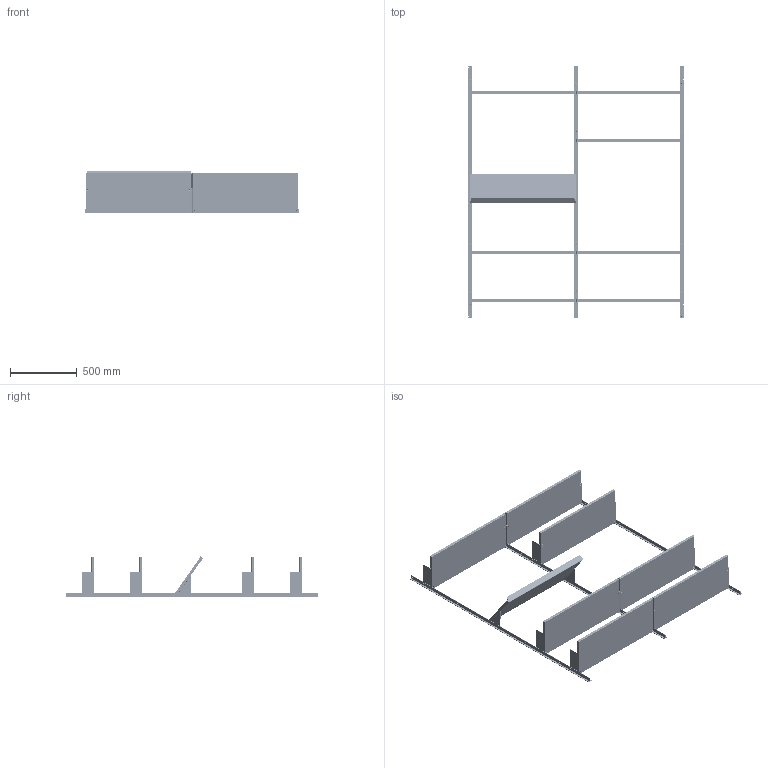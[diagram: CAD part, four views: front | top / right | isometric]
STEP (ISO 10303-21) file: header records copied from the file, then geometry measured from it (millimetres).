
FILE_DESCRIPTION (( 'STEP AP214' ), '1' );
FILE_NAME ('NW Living.STEP', '2022-11-16T12:10:27', ( '' ), ( '' ), 'SwSTEP 2.0', 'SolidWorks 2021', '' );
FILE_SCHEMA (( 'AUTOMOTIVE_DESIGN' ));
Length unit declared in the file: millimetre
Products named in the file (15): 419 9014; 419 9011; 419 9001; 419 9005; 419 9006; DIN 467 M4.stp; 419 9030; M3x5x4 Threaded Insert; DIN 653 M4 12 mm.stp; countersunk raised head cross recess screw_iso_ISO 7047 - M4 x 12 - Z - 12N; 419 9012; 419 9013; 419 8003; NW Living; 419 8002
Assembly tree (37 placements, depth 3):
  NW Living
    419 9030  x3
    419 8002  x7
      419 9001
      419 9005
      419 9006
      DIN 467 M4.stp
      DIN 653 M4 12 mm.stp
      M3x5x4 Threaded Insert
    419 8003
      419 9013
      419 9014
      419 9011
      419 9012
      DIN 467 M4.stp  x2
      DIN 653 M4 12 mm.stp  x2
      countersunk raised head cross recess screw_iso_ISO 7047 - M4 x 12 - Z - 12N  x7
Bounding box: 1626 x 1896 x 319.63 mm (x, y, z)
Volume: 40396006.6 mm3; surface area: 5724014.5 mm2
Topology: 95 solids, 95 shells, 17340 faces, 38140 edges, 21171 vertices
Faces by surface type: plane 6790, cone 6324, cylinder 3966, torus 242, sphere 14, bspline 4
Entity records: 36103 total; most frequent: CARTESIAN_POINT 7622, DIRECTION 6089, ORIENTED_EDGE 5894, EDGE_CURVE 2947, AXIS2_PLACEMENT_3D 2542, VERTEX_POINT 1667, EDGE_LOOP 1416, FACE_OUTER_BOUND 1322
